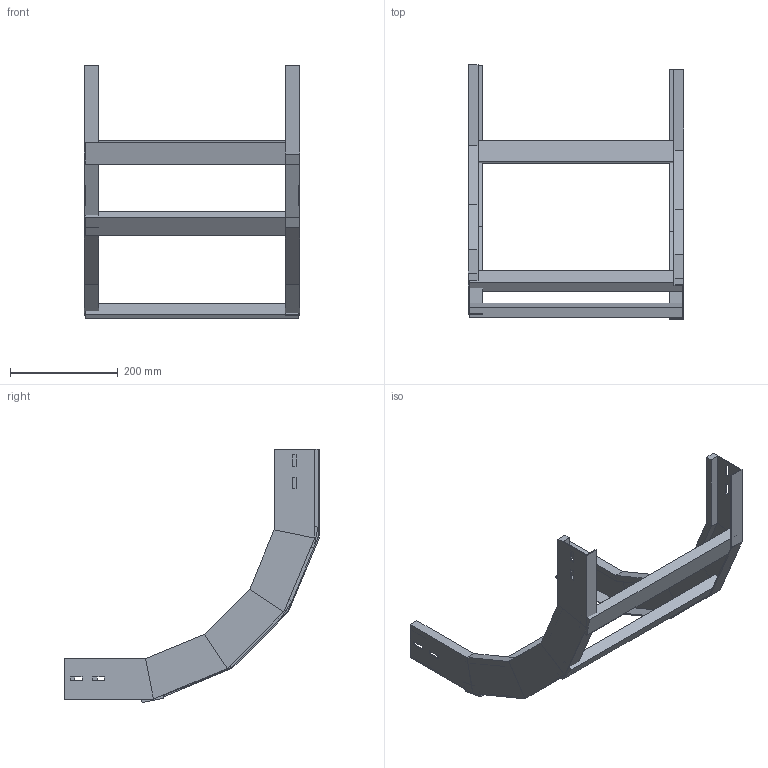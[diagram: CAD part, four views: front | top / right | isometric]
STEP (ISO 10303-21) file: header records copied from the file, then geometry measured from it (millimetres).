
FILE_DESCRIPTION (( 'STEP AP214' ), '1' );
FILE_NAME ('A2X30B3C400XX.step', '2025-04-02T08:42:56', ( '' ), ( '' ), 'SwSTEP 2.0', 'SolidWorks 2023', '' );
FILE_SCHEMA (( 'AUTOMOTIVE_DESIGN' ));
Length unit declared in the file: millimetre
Products named in the file (3): LONGH.SALITA_90°_H75_R300; TRAVERSINO_400; A2X30B3C400XX
Assembly tree (5 placements, depth 2):
  A2X30B3C400XX
    LONGH.SALITA_90°_H75_R300  x2
    TRAVERSINO_400  x3
Bounding box: 400 x 472.38 x 470.38 mm (x, y, z)
Volume: 1507191.7 mm3; surface area: 488874.2 mm2
Topology: 5 solids, 5 shells, 134 faces, 308 edges, 184 vertices
Faces by surface type: plane 134
Entity records: 1864 total; most frequent: CARTESIAN_POINT 308, ORIENTED_EDGE 296, DIRECTION 292, LINE 148, EDGE_CURVE 148, VECTOR 148, VERTEX_POINT 88, EDGE_LOOP 72
